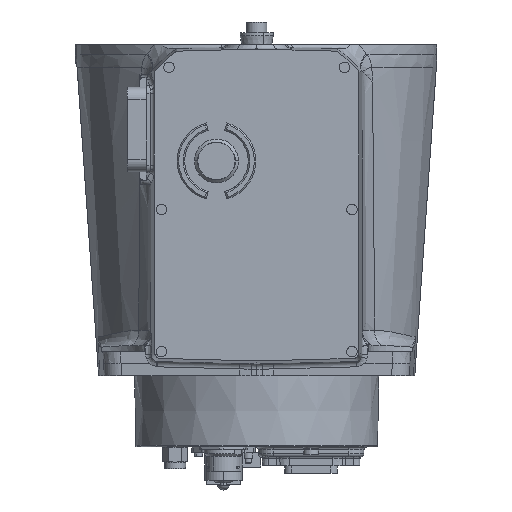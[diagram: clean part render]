
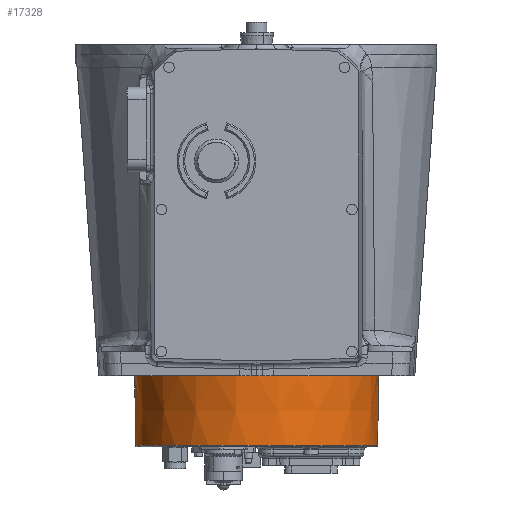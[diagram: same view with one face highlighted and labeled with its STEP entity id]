
A CAD part, left-side view. The second image highlights one B-rep face of the part: STEP entity #17328.
In plain terms, the highlighted conical face has half-angle 1 degrees and reference radius 81 mm.
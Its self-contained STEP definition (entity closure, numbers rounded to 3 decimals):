
#1126 = CIRCLE ( 'NONE', #10527, 80.721 ) ;
#2711 = CARTESIAN_POINT ( 'NONE',  ( -31.32, -73.528, -46.017 ) ) ;
#3005 = CARTESIAN_POINT ( 'NONE',  ( 0., 0., -46.017 ) ) ;
#3031 = VERTEX_POINT ( 'NONE', #20483 ) ;
#3694 = VECTOR ( 'NONE', #26844, 1000. ) ;
#3994 = VERTEX_POINT ( 'NONE', #20204 ) ;
#4529 = CARTESIAN_POINT ( 'NONE',  ( 0., 0., 16. ) ) ;
#4911 = CARTESIAN_POINT ( 'NONE',  ( 0., 0., 0. ) ) ;
#4988 = DIRECTION ( 'NONE',  ( 0., 0., 1. ) ) ;
#6845 = EDGE_CURVE ( 'NONE', #22089, #18783, #20064, .T. ) ;
#7486 = FACE_OUTER_BOUND ( 'NONE', #28994, .T. ) ;
#7965 = EDGE_CURVE ( 'NONE', #27845, #17215, #1126, .T. ) ;
#7972 = DIRECTION ( 'NONE',  ( 0., 0., 1. ) ) ;
#8404 = CARTESIAN_POINT ( 'NONE',  ( 0., 81., 16. ) ) ;
#9262 = CIRCLE ( 'NONE', #11738, 79.917 ) ;
#9533 = CARTESIAN_POINT ( 'NONE',  ( -31.923, -73.267, -46.033 ) ) ;
#9655 = CARTESIAN_POINT ( 'NONE',  ( -30.713, -73.78, -46.017 ) ) ;
#10284 = EDGE_CURVE ( 'NONE', #3031, #22089, #22079, .T. ) ;
#10527 = AXIS2_PLACEMENT_3D ( 'NONE', #4911, #11605, #23228 ) ;
#11605 = DIRECTION ( 'NONE',  ( 0., 0., -1. ) ) ;
#11738 = AXIS2_PLACEMENT_3D ( 'NONE', #25227, #30200, #13904 ) ;
#12162 = CARTESIAN_POINT ( 'NONE',  ( -35.495, -71.605, -46.059 ) ) ;
#12213 = EDGE_CURVE ( 'NONE', #18783, #3994, #9262, .T. ) ;
#13004 = VECTOR ( 'NONE', #18719, 1000. ) ;
#13887 = CARTESIAN_POINT ( 'NONE',  ( 0., -80.721, 0. ) ) ;
#13904 = DIRECTION ( 'NONE',  ( 0., 1., 0. ) ) ;
#14174 = CARTESIAN_POINT ( 'NONE',  ( -33.719, -72.458, -46.07 ) ) ;
#14480 = CARTESIAN_POINT ( 'NONE',  ( -33.122, -72.733, -46.059 ) ) ;
#14648 = CARTESIAN_POINT ( 'NONE',  ( -34.905, -71.894, -46.07 ) ) ;
#15248 = DIRECTION ( 'NONE',  ( 0., 1., 0. ) ) ;
#15549 = ORIENTED_EDGE ( 'NONE', *, *, #10284, .T. ) ;
#16122 = ORIENTED_EDGE ( 'NONE', *, *, #6845, .T. ) ;
#16237 = LINE ( 'NONE', #23661, #13004 ) ;
#16505 = CARTESIAN_POINT ( 'NONE',  ( -37.83, -70.397, -46.017 ) ) ;
#16833 = ORIENTED_EDGE ( 'NONE', *, *, #7965, .T. ) ;
#17148 = CONICAL_SURFACE ( 'NONE', #21621, 81., 0.017 ) ;
#17215 = VERTEX_POINT ( 'NONE', #20817 ) ;
#17328 = ADVANCED_FACE ( 'NONE', ( #7486 ), #17148, .T. ) ;
#18719 = DIRECTION ( 'NONE',  ( 0., -0.017, 1. ) ) ;
#18783 = VERTEX_POINT ( 'NONE', #9655 ) ;
#18859 = CARTESIAN_POINT ( 'NONE',  ( -37.83, -70.397, -46.017 ) ) ;
#19841 = ORIENTED_EDGE ( 'NONE', *, *, #27100, .F. ) ;
#20064 = B_SPLINE_CURVE_WITH_KNOTS ( 'NONE', 3,
 ( #16505, #30639, #25961, #12162, #14648, #14174, #14480, #9533, #2711, #21164 ),
 .UNSPECIFIED., .F., .F.,
 ( 4, 2, 2, 2, 4 ),
 ( 0., 0.002, 0.004, 0.006, 0.008 ),
 .UNSPECIFIED. ) ;
#20103 = AXIS2_PLACEMENT_3D ( 'NONE', #3005, #7972, #15248 ) ;
#20204 = CARTESIAN_POINT ( 'NONE',  ( 0., -79.917, -46.017 ) ) ;
#20483 = CARTESIAN_POINT ( 'NONE',  ( 0., 79.917, -46.017 ) ) ;
#20817 = CARTESIAN_POINT ( 'NONE',  ( 0., 80.721, 0. ) ) ;
#21164 = CARTESIAN_POINT ( 'NONE',  ( -30.713, -73.78, -46.017 ) ) ;
#21621 = AXIS2_PLACEMENT_3D ( 'NONE', #4529, #4988, #26081 ) ;
#22079 = CIRCLE ( 'NONE', #20103, 79.917 ) ;
#22089 = VERTEX_POINT ( 'NONE', #18859 ) ;
#23228 = DIRECTION ( 'NONE',  ( 0., 1., 0. ) ) ;
#23661 = CARTESIAN_POINT ( 'NONE',  ( 0., -81., 16. ) ) ;
#24664 = EDGE_CURVE ( 'NONE', #3994, #27845, #16237, .T. ) ;
#25227 = CARTESIAN_POINT ( 'NONE',  ( 0., 0., -46.017 ) ) ;
#25961 = CARTESIAN_POINT ( 'NONE',  ( -36.668, -71.012, -46.033 ) ) ;
#26081 = DIRECTION ( 'NONE',  ( 0., 1., 0. ) ) ;
#26844 = DIRECTION ( 'NONE',  ( 0., 0.017, 1. ) ) ;
#27100 = EDGE_CURVE ( 'NONE', #3031, #17215, #29169, .T. ) ;
#27845 = VERTEX_POINT ( 'NONE', #13887 ) ;
#28994 = EDGE_LOOP ( 'NONE', ( #30330, #30207, #16833, #19841, #15549, #16122 ) ) ;
#29169 = LINE ( 'NONE', #8404, #3694 ) ;
#30200 = DIRECTION ( 'NONE',  ( 0., 0., 1. ) ) ;
#30207 = ORIENTED_EDGE ( 'NONE', *, *, #24664, .T. ) ;
#30330 = ORIENTED_EDGE ( 'NONE', *, *, #12213, .T. ) ;
#30639 = CARTESIAN_POINT ( 'NONE',  ( -37.251, -70.708, -46.017 ) ) ;
